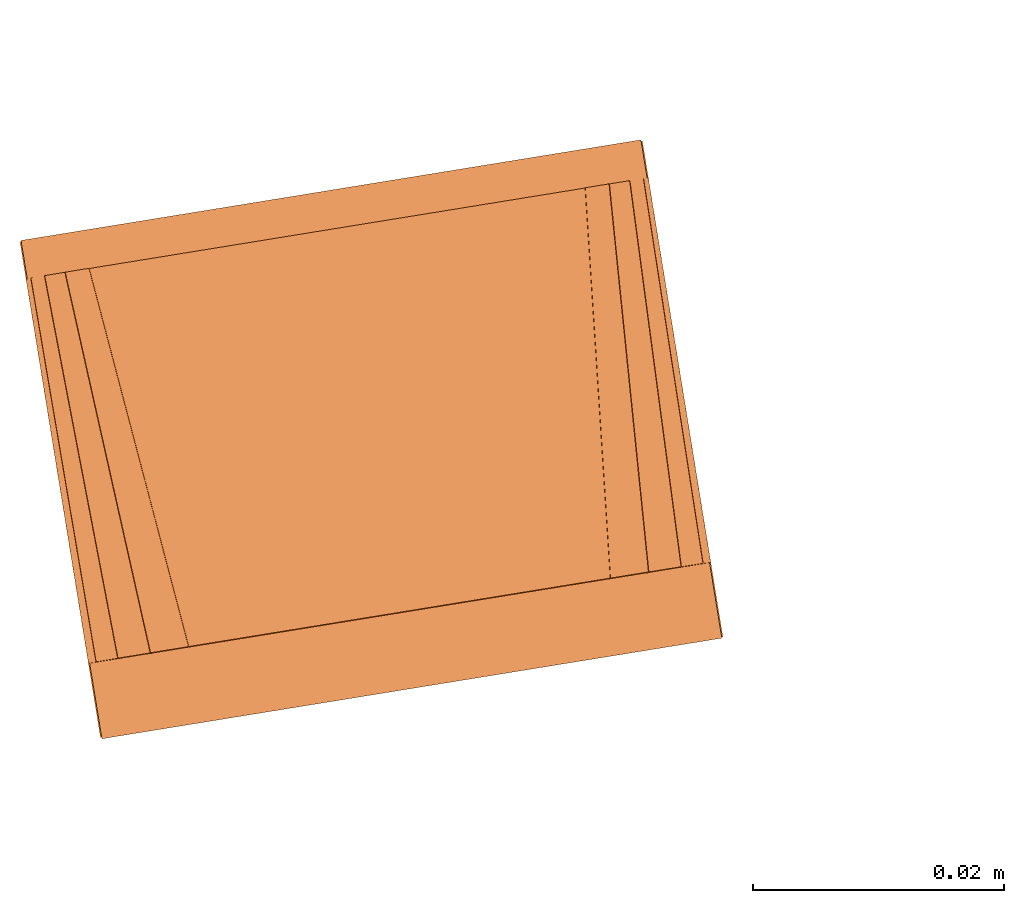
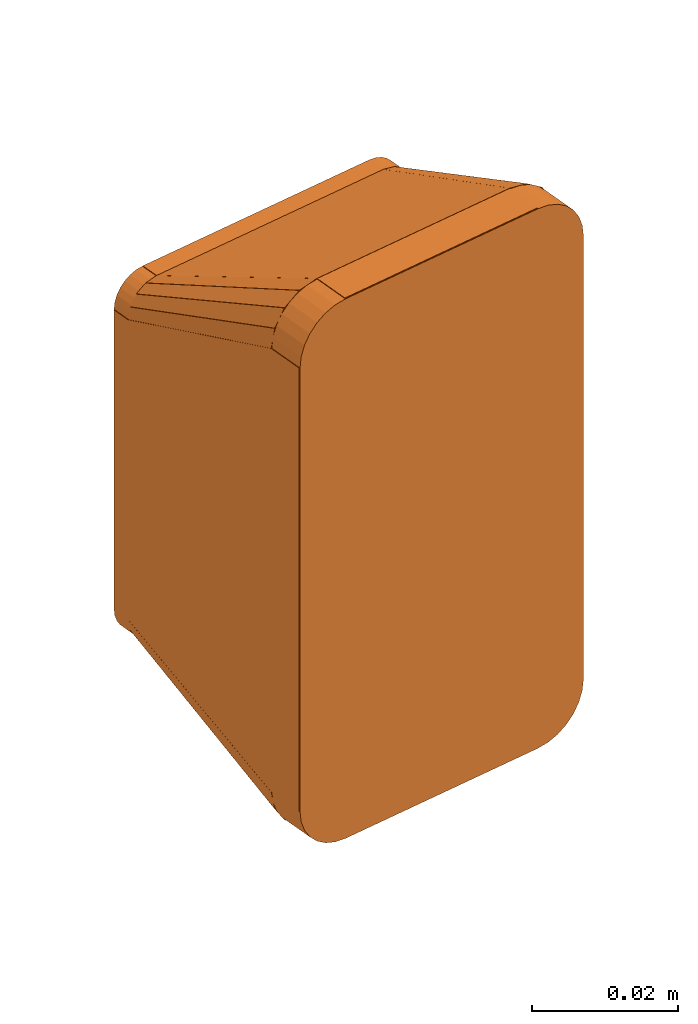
# One storey, part 13 of 20: 1 proxy.
"""IFC2X3 building model written with IfcOpenShell, lengths in millimetres."""

from ifc_helpers import new_model, entity, si_unit, converted_unit, derived_unit, direction, frame, frame_2d, origin, origin_with_axes, origin_2d_with_axis, place, context, subcontext, project, spatial, polyline, circle_curve, parameter, trimmed, segment, composite_curve, rectangle, outline, extrude, source, transform, mapped, material, type_object, element, save


model = new_model("IFC2X3")

# Units and contexts
model_context = context("Model", 3, precision=0.01, world=origin(), true_north=direction((6.12323399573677e-17, 1.0)))
plan_context = context("Plan", 3, precision=1e-05, world=origin_with_axes())
body_context = subcontext(model_context, "Body", "Model", "MODEL_VIEW")
ifc_project = project(units=[converted_unit("PLANEANGLEUNIT", "DEGREE", entity("IfcPositiveLengthMeasure", 0.0174532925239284), si_unit("PLANEANGLEUNIT", "RADIAN"), dimensions=[0, 0, 0, 0, 0, 0, 0]), si_unit("AREAUNIT", "SQUARE_METRE"), si_unit("LENGTHUNIT", "METRE", prefix="MILLI"), si_unit("MASSUNIT", "GRAM", prefix="KILO"), si_unit("POWERUNIT", "WATT"), si_unit("PRESSUREUNIT", "PASCAL", prefix="KILO"), si_unit("FORCEUNIT", "NEWTON", prefix="KILO"), si_unit("ELECTRICVOLTAGEUNIT", "VOLT"), si_unit("ELECTRICCURRENTUNIT", "AMPERE"), si_unit("THERMODYNAMICTEMPERATUREUNIT", "DEGREE_CELSIUS"), si_unit("TIMEUNIT", "SECOND"), si_unit("VOLUMEUNIT", "CUBIC_METRE"), derived_unit("LINEARVELOCITYUNIT", [(si_unit("LENGTHUNIT", "METRE"), 1), (si_unit("TIMEUNIT", "SECOND"), -1)]), derived_unit("VOLUMETRICFLOWRATEUNIT", [(si_unit("VOLUMEUNIT", "CUBIC_METRE"), 1), (si_unit("TIMEUNIT", "SECOND"), -1)]), derived_unit("THERMALTRANSMITTANCEUNIT", [(si_unit("POWERUNIT", "WATT"), 1), (si_unit("THERMODYNAMICTEMPERATUREUNIT", "KELVIN"), -1), (si_unit("AREAUNIT", "SQUARE_METRE"), -1)]), derived_unit("SOUNDPRESSUREUNIT", [(si_unit("PRESSUREUNIT", "PASCAL"), 1)])], contexts=[model_context, plan_context])

# Site, building, storey
site_placement = place(None, frame((-0.219946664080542, 0.12226179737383, 0.0), z_axis=(0.0, 0.0, 1.0), x_axis=(-0.160236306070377, 0.987078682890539, 0.0)))
site = spatial("IfcSite", under=ifc_project, at=site_placement, Name="Default", CompositionType="ELEMENT")
building_placement = place(site_placement, origin_with_axes())
building = spatial("IfcBuilding", under=site, at=building_placement, CompositionType="ELEMENT")
storey_placement = place(building_placement, frame((0.0, 0.0, 50999.9999999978), z_axis=(0.0, 0.0, 1.0), x_axis=(1.0, 0.0, 0.0)))
storey = spatial("IfcBuildingStorey", under=building, at=storey_placement, Name="Nivå D", CompositionType="ELEMENT", Elevation=50999.9999999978)

# Proxy
ifc_material = material(Name="<Unnamed>")
building_element_proxy_type = type_object("IfcBuildingElementProxyType", Name="Enkel stikk på vegg 2P+J IP44 PH:COVERED-SOCKET- 1", PredefinedType="NOTDEFINED", material=ifc_material)
shared_shape = source(origin(), body_context, "Body", "SweptSolid", [
    extrude(rectangle(XDim=2.99999999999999, YDim=40.0, at=frame_2d((2.1094237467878e-15, 0.0), x_axis=(1.0, 0.0))), frame((0.0, 38.5, 29.8999999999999), z_axis=(0.0, 0.0, 1.0), x_axis=(0.0, -1.0, 0.0)), (0.0, 0.0, 1.0), 0.200000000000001),
    extrude(rectangle(XDim=0.200000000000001, YDim=2.99999999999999, at=frame_2d((-2.11636264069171e-15, 0.0), x_axis=(1.0, 0.0))), frame((-25.0, 38.5, -25.0)), (0.0, 0.0, 1.0), 50.0),
    extrude(rectangle(XDim=2.99999999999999, YDim=40.0, at=frame_2d((2.1094237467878e-15, 0.0), x_axis=(1.0, 0.0))), frame((0.0, 38.5, -30.1), z_axis=(0.0, 0.0, 1.0), x_axis=(0.0, -1.0, 0.0)), (0.0, 0.0, 1.0), 0.200000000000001),
    extrude(rectangle(XDim=0.200000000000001, YDim=2.99999999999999, at=frame_2d((-2.11636264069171e-15, 0.0), x_axis=(1.0, 0.0))), frame((25.0, 38.5, -25.0)), (0.0, 0.0, 1.0), 50.0),
    extrude(rectangle(XDim=0.199999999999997, YDim=5.0, at=frame_2d((4.2257863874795e-15, 0.0), x_axis=(1.0, 0.0))), frame((-22.5, 40.0, -25.0), z_axis=(0.0, 0.0, 1.0), x_axis=(0.0, 1.0, 0.0)), (0.0, 0.0, 1.0), 50.0),
    extrude(rectangle(XDim=0.199999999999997, YDim=40.0, at=frame_2d((4.2257863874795e-15, 0.0), x_axis=(1.0, 0.0))), frame((0.0, 40.0, -30.0), z_axis=(0.0, 0.0, 1.0), x_axis=(0.0, 1.0, 0.0)), (0.0, 0.0, 1.0), 5.00000000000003),
    extrude(rectangle(XDim=0.199999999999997, YDim=40.0, at=frame_2d((4.2257863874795e-15, 1.77635683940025e-15), x_axis=(1.0, 0.0))), frame((0.0, 40.0, 25.0), z_axis=(0.0, 0.0, 1.0), x_axis=(0.0, 1.0, 0.0)), (0.0, 0.0, 1.0), 5.00000000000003),
    extrude(rectangle(XDim=0.199999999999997, YDim=5.0, at=frame_2d((4.2257863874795e-15, 0.0), x_axis=(1.0, 0.0))), frame((22.5, 40.0, -25.0), z_axis=(0.0, 0.0, 1.0), x_axis=(0.0, 1.0, 0.0)), (0.0, 0.0, 1.0), 50.0),
    extrude(rectangle(XDim=0.199999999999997, YDim=40.0, at=frame_2d((4.2257863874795e-15, 0.0), x_axis=(1.0, 0.0))), frame((0.0, 40.0, -25.0), z_axis=(0.0, 0.0, 1.0), x_axis=(0.0, 1.0, 0.0)), (0.0, 0.0, 1.0), 50.0),
    extrude(outline(polyline([(-37.0, -15.5), (37.0, -15.5), (25.0, 15.5), (-25.0, 15.5), (-37.0, -15.5)])), frame((24.9, 21.5, 0.0), z_axis=(1.0, 0.0, 0.0), x_axis=(0.0, 0.0, -1.0)), (0.0, 0.0, 1.0), 0.200000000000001),
    extrude(outline(polyline([(-37.0, -15.5), (37.0, -15.5), (25.0, 15.5), (-25.0, 15.5), (-37.0, -15.5)])), frame((-25.1, 21.5, 0.0), z_axis=(1.0, 0.0, 0.0), x_axis=(0.0, 0.0, -1.0)), (0.0, 0.0, 1.0), 0.200000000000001),
    extrude(rectangle(XDim=0.200000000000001, YDim=5.99999999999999, at=frame_2d((-2.11636264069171e-15, 0.0), x_axis=(1.0, 0.0))), frame((-25.0, 3.0, -37.0)), (0.0, 0.0, 1.0), 73.9999999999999),
    extrude(outline(polyline([(-20.0, -17.2191753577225), (20.0, -17.2191753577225), (17.0, 17.2191753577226), (-17.0, 17.2191753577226), (-20.0, -17.2191753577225)])), frame((0.0, 21.5435560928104, -37.5900159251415), z_axis=(0.0, -0.43556092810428, 0.900159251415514), x_axis=(-1.0, 0.0, 0.0)), (0.0, 0.0, 1.0), 0.200000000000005),
    extrude(outline(polyline([(-20.0, -17.2191753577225), (20.0, -17.2191753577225), (17.0, 17.2191753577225), (-17.0, 17.2191753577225), (-20.0, -17.2191753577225)])), frame((0.0, 21.4564439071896, 37.4099840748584), z_axis=(0.0, 0.435560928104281, 0.900159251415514), x_axis=(-1.0, 0.0, 0.0)), (0.0, 0.0, 1.0), 0.2),
    extrude(rectangle(XDim=0.200000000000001, YDim=40.0, at=frame_2d((-2.11636264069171e-15, 0.0), x_axis=(1.0, 0.0))), frame((0.0, 37.0, -30.0), z_axis=(0.0, 0.0, 1.0), x_axis=(0.0, 1.0, 0.0)), (0.0, 0.0, 1.0), 59.9999999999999),
    extrude(rectangle(XDim=5.99999999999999, YDim=34.0, at=frame_2d((-4.44089209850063e-16, 0.0), x_axis=(1.0, 0.0))), frame((0.0, 3.0, -45.1), z_axis=(0.0, 0.0, 1.0), x_axis=(0.0, -1.0, 0.0)), (0.0, 0.0, 1.0), 0.199999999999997),
    extrude(rectangle(XDim=0.200000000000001, YDim=5.99999999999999, at=frame_2d((-2.11636264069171e-15, 0.0), x_axis=(1.0, 0.0))), frame((25.0, 3.0, -37.0)), (0.0, 0.0, 1.0), 73.9999999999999),
    extrude(rectangle(XDim=5.99999999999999, YDim=34.0, at=frame_2d((-4.44089209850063e-16, 0.0), x_axis=(1.0, 0.0))), frame((0.0, 3.0, 44.8999999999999), z_axis=(0.0, 0.0, 1.0), x_axis=(0.0, -1.0, 0.0)), (0.0, 0.0, 1.0), 0.199999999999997),
    extrude(rectangle(XDim=0.2, YDim=7.99999999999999, at=frame_2d((0.0, -8.88178419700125e-16), x_axis=(1.0, 0.0))), frame((-21.0, 0.0, -37.0), z_axis=(0.0, 0.0, 1.0), x_axis=(0.0, 1.0, 0.0)), (0.0, 0.0, 1.0), 73.9999999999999),
    extrude(rectangle(XDim=0.2, YDim=34.0, at=origin_2d_with_axis()), frame((0.0, 0.0, 37.0), z_axis=(0.0, 0.0, 1.0), x_axis=(0.0, 1.0, 0.0)), (0.0, 0.0, 1.0), 7.99999999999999),
    extrude(rectangle(XDim=0.2, YDim=34.0, at=origin_2d_with_axis()), frame((0.0, 0.0, -45.0), z_axis=(0.0, 0.0, 1.0), x_axis=(0.0, 1.0, 0.0)), (0.0, 0.0, 1.0), 7.99999999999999),
    extrude(rectangle(XDim=0.2, YDim=7.99999999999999, at=frame_2d((0.0, 8.88178419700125e-16), x_axis=(1.0, 0.0))), frame((21.0, 0.0, -37.0), z_axis=(0.0, 0.0, 1.0), x_axis=(0.0, 1.0, 0.0)), (0.0, 0.0, 1.0), 73.9999999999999),
    extrude(rectangle(XDim=0.2, YDim=34.0, at=origin_2d_with_axis()), frame((0.0, 0.0, -37.0), z_axis=(0.0, 0.0, 1.0), x_axis=(0.0, 1.0, 0.0)), (0.0, 0.0, 1.0), 73.9999999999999),
    extrude(outline(polyline([(1.08099727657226, -17.03348345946), (4.20244242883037, -17.03348345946), (-1.66626824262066, 17.03348345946), (-3.61717146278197, 17.03348345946), (1.08099727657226, -17.03348345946)])), frame((-19.7259684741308, 21.4585331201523, 37.1633597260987), z_axis=(-0.177526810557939, 0.414668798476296, 0.892487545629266), x_axis=(0.980785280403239, 0.0, 0.195090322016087)), (0.0, 0.0, 1.0), 0.2),
    extrude(outline(polyline([(3.01990324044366, -16.4896658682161), (6.1413483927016, -16.4896658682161), (-3.60517420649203, 16.4896658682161), (-5.55607742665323, 16.4896658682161), (3.01990324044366, -16.4896658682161)])), frame((-21.9895955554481, 21.4658777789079, 36.2225488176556), z_axis=(-0.522226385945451, 0.341222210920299, 0.781567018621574), x_axis=(0.831469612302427, 0.0, 0.555570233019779)), (0.0, 0.0, 1.0), 0.199999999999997),
    extrude(outline(polyline([(-16.4204267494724, -1.19774945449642), (17.253352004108, -1.19774945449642), (16.6126402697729, 0.64494201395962), (-17.4455655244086, 1.75055689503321), (-16.4204267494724, -1.19774945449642)])), frame((-23.8817454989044, 21.522369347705, 34.5959673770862), z_axis=(0.810399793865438, -0.223693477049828, -0.541491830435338), x_axis=(-0.00678157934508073, 0.92059760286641, -0.390453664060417)), (0.0, 0.0, 1.0), 0.199999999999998),
    extrude(outline(polyline([(-16.171794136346, -1.18594495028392), (17.0697461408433, -1.18594495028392), (16.3790138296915, 0.638585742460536), (-17.2769658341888, 1.73330415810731), (-16.171794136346, -1.18594495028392)])), frame((-24.850408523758, 21.5075304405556, 32.2631747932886), z_axis=(0.978000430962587, -0.0753044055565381, -0.194536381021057), x_axis=(0.0, 0.93256809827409, -0.360994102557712)), (0.0, 0.0, 1.0), 0.199999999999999),
    extrude(outline(polyline([(-29.6193976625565, -0.956708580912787), (29.6193976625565, -0.956708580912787), (30.0, 0.956708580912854), (-30.0, 0.95670858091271), (-29.6193976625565, -0.956708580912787)])), frame((-20.9567085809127, 36.9, 0.0), z_axis=(0.0, 1.0, 0.0), x_axis=(0.0, 0.0, 1.0)), (0.0, 0.0, 1.0), 0.200000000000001),
    extrude(outline(polyline([(-28.5355339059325, -0.811058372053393), (28.5355339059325, -0.811058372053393), (29.6193976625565, 0.811058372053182), (-29.6193976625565, 0.811058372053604), (-28.5355339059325, -0.811058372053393)])), frame((-22.7244755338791, 36.9, 0.0), z_axis=(0.0, 1.0, 0.0), x_axis=(0.0, 0.0, 1.0)), (0.0, 0.0, 1.0), 0.200000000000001),
    extrude(outline(polyline([(-26.9134171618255, -0.541931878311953), (26.9134171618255, -0.541931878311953), (28.5355339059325, 0.541931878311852), (-28.5355339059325, 0.541931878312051), (-26.9134171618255, -0.541931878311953)])), frame((-24.0774657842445, 36.9, 0.0), z_axis=(0.0, 1.0, 0.0), x_axis=(0.0, 0.0, 1.0)), (0.0, 0.0, 1.0), 0.200000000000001),
    extrude(outline(polyline([(-25.0, -0.190301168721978), (25.0, -0.190301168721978), (26.9134171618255, 0.190301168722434), (-26.9134171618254, 0.190301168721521), (-25.0, -0.190301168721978)])), frame((-24.809698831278, 36.9, 0.0), z_axis=(0.0, 1.0, 0.0), x_axis=(0.0, 0.0, 1.0)), (0.0, 0.0, 1.0), 0.200000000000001),
    extrude(outline(polyline([(1.08099727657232, -17.03348345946), (4.20244242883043, -17.03348345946), (-1.66626824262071, 17.03348345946), (-3.61717146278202, 17.03348345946), (1.08099727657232, -17.03348345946)])), frame((-19.7614738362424, 21.5414668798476, -37.3418572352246), z_axis=(0.177526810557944, -0.414668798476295, 0.892487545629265), x_axis=(0.980785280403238, 0.0, -0.195090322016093)), (0.0, 0.0, 1.0), 0.2),
    extrude(outline(polyline([(3.01990324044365, -16.4896658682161), (6.14134839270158, -16.4896658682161), (-3.60517420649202, 16.4896658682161), (-5.55607742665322, 16.4896658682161), (3.01990324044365, -16.4896658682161)])), frame((-22.0940408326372, 21.534122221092, -36.37886222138), z_axis=(0.522226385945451, -0.341222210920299, 0.781567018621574), x_axis=(0.831469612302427, 0.0, -0.555570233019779)), (0.0, 0.0, 1.0), 0.199999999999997),
    extrude(outline(polyline([(4.26145044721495, -15.9029889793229), (7.38289559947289, -15.9029889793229), (-4.84672141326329, 15.9029889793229), (-6.79762463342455, 15.9029889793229), (4.26145044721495, -15.9029889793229)])), frame((-23.8817454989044, 21.522369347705, -34.5959673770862), z_axis=(0.810399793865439, -0.223693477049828, 0.541491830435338), x_axis=(0.555570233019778, 0.0, -0.831469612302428)), (0.0, 0.0, 1.0), 0.199999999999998),
    extrude(outline(polyline([(4.61662458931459, -15.5441361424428), (7.73806974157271, -15.5441361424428), (-5.201895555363, 15.5441361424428), (-7.1527987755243, 15.5441361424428), (4.61662458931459, -15.5441361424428)])), frame((-24.850408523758, 21.5075304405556, -32.2631747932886), z_axis=(0.978000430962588, -0.0753044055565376, 0.194536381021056), x_axis=(0.195090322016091, 0.0, -0.980785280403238)), (0.0, 0.0, 1.0), 0.200000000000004),
    extrude(outline(polyline([(-26.4334093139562, -5.06390263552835), (-24.4825060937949, -5.06390263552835), (24.5567579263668, 4.69061346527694), (26.3591574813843, 5.43719180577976), (-26.4334093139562, -5.06390263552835)])), frame((24.8096988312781, 36.9, 0.0), z_axis=(0.0, 1.0, 0.0), x_axis=(0.195090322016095, 0.0, -0.980785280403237)), (0.0, 0.0, 1.0), 0.200000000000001),
    extrude(outline(polyline([(-24.0275105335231, -15.4028933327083), (-22.0766073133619, -15.4028933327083), (22.6787697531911, 14.5016935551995), (23.4253480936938, 16.3040931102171), (-24.0275105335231, -15.4028933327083)])), frame((24.0774657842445, 36.9, 0.0), z_axis=(0.0, 1.0, 0.0), x_axis=(0.555570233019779, 0.0, -0.831469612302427)), (0.0, 0.0, 1.0), 0.200000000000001),
    extrude(outline(polyline([(-17.1300260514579, -24.1770292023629), (-15.1791228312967, -24.1770292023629), (16.5278636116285, 23.2758294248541), (15.7812852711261, 25.0782289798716), (-17.1300260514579, -24.1770292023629)])), frame((22.7244755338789, 36.9, 0.0), z_axis=(0.0, 1.0, 0.0), x_axis=(0.831469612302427, 0.0, -0.555570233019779)), (0.0, 0.0, 1.0), 0.200000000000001),
    extrude(outline(polyline([(-6.79103535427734, -29.2369138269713), (-4.84013213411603, -29.2369138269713), (6.71678352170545, 28.8636246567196), (4.91438396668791, 29.6102029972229), (-6.79103535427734, -29.2369138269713)])), frame((20.9567085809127, 36.9, 0.0), z_axis=(0.0, 1.0, 0.0), x_axis=(0.980785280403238, 0.0, -0.195090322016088)), (0.0, 0.0, 1.0), 0.200000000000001),
    extrude(outline(polyline([(-17.3241825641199, -1.1707220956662), (16.3495961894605, -1.1707220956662), (17.0992780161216, 0.630388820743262), (-16.1246916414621, 1.71105537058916), (-17.3241825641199, -1.1707220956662)])), frame((24.6548084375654, 21.4924695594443, -32.2242675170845), z_axis=(0.978000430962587, 0.0753044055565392, -0.19453638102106), x_axis=(0.00678157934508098, 0.920597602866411, 0.390453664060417)), (0.0, 0.0, 1.0), 0.2),
    extrude(outline(polyline([(-17.4931781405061, -1.18360654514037), (16.5829684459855, -1.18360654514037), (17.2831297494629, 0.637326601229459), (-16.3729200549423, 1.7298864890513), (-17.4931781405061, -1.18360654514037)])), frame((23.7196655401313, 21.477630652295, -34.4876690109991), z_axis=(0.810399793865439, 0.223693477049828, -0.541491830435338), x_axis=(0.0257857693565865, 0.909727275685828, 0.414404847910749)), (0.0, 0.0, 1.0), 0.199999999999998),
    extrude(outline(polyline([(-6.14134839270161, -16.4896658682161), (-3.01990324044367, -16.4896658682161), (5.55607742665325, 16.4896658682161), (3.605174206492, 16.4896658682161), (-6.14134839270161, -16.4896658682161)])), frame((22.0940408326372, 21.534122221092, -36.37886222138), z_axis=(-0.52222638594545, -0.341222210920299, 0.781567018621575), x_axis=(0.831469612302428, 0.0, 0.555570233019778)), (0.0, 0.0, 1.0), 0.199999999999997),
    extrude(outline(polyline([(-4.20244242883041, -17.03348345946), (-1.0809972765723, -17.03348345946), (3.61717146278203, 17.03348345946), (1.66626824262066, 17.03348345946), (-4.20244242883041, -17.03348345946)])), frame((19.7614738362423, 21.5414668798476, -37.3418572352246), z_axis=(-0.177526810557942, -0.414668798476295, 0.892487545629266), x_axis=(0.980785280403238, 0.0, 0.19509032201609)), (0.0, 0.0, 1.0), 0.200000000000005),
    extrude(outline(polyline([(-7.73806974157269, -15.5441361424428), (-4.61662458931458, -15.5441361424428), (7.1527987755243, 15.5441361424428), (5.20189555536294, 15.5441361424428), (-7.73806974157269, -15.5441361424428)])), frame((24.6548084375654, 21.4924695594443, 32.2242675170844), z_axis=(0.978000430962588, 0.0753044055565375, 0.194536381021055), x_axis=(0.195090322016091, 0.0, -0.980785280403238)), (0.0, 0.0, 1.0), 0.199999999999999),
    extrude(outline(polyline([(-7.3828955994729, -15.9029889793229), (-4.26145044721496, -15.9029889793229), (6.79762463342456, 15.9029889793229), (4.84672141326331, 15.9029889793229), (-7.3828955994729, -15.9029889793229)])), frame((23.7196655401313, 21.477630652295, 34.4876690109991), z_axis=(0.810399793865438, 0.223693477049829, 0.541491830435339), x_axis=(0.55557023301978, 0.0, -0.831469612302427)), (0.0, 0.0, 1.0), 0.199999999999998),
    extrude(outline(polyline([(-6.1413483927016, -16.4896658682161), (-3.01990324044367, -16.4896658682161), (5.55607742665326, 16.4896658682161), (3.60517420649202, 16.4896658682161), (-6.1413483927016, -16.4896658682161)])), frame((21.9895955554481, 21.4658777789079, 36.2225488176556), z_axis=(0.522226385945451, 0.341222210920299, 0.781567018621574), x_axis=(0.831469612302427, 0.0, -0.555570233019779)), (0.0, 0.0, 1.0), 0.200000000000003),
    extrude(outline(polyline([(-4.20244242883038, -17.03348345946), (-1.08099727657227, -17.03348345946), (3.61717146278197, 17.03348345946), (1.66626824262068, 17.03348345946), (-4.20244242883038, -17.03348345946)])), frame((19.7259684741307, 21.4585331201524, 37.1633597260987), z_axis=(0.177526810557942, 0.414668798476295, 0.892487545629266), x_axis=(0.980785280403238, 0.0, -0.19509032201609)), (0.0, 0.0, 1.0), 0.2),
    extrude(outline(composite_curve([segment(polyline([(-2.70000000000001, -2.29999999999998), (-1.90000000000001, -2.29999999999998)]), True, "CONTINUOUS"), segment(trimmed(circle_curve(frame_2d((2.29999999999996, -2.29999999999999), x_axis=(-1.0, 0.0)), 4.19999999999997), [parameter(270.0)], [parameter(0.0)], True, "PARAMETER"), False, "CONTINUOUS"), segment(polyline([(2.3, 1.89999999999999), (2.3, 2.69999999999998)]), True, "CONTINUOUS"), segment(trimmed(circle_curve(frame_2d((2.29999999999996, -2.29999999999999), x_axis=(0.0, 1.0)), 4.99999999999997), [parameter(0.0)], [parameter(90.0000000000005)], True, "PARAMETER"), True, "CONTINUOUS")], self_intersect=False)), frame((-22.3, 37.0, 27.3), z_axis=(0.0, 1.0, 0.0), x_axis=(0.0, 0.0, -1.0)), (0.0, 0.0, 1.0), 2.99999999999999),
    extrude(outline(composite_curve([segment(polyline([(-2.6999999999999, -2.30000000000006), (-1.8999999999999, -2.30000000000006)]), True, "CONTINUOUS"), segment(trimmed(circle_curve(frame_2d((2.30000000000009, -2.2999999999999), x_axis=(-1.0, 0.0)), 4.19999999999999), [parameter(270.000000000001)], [parameter(7.63333123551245e-13)], True, "PARAMETER"), False, "CONTINUOUS"), segment(polyline([(2.29999999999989, 1.90000000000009), (2.29999999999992, 2.70000000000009)]), True, "CONTINUOUS"), segment(trimmed(circle_curve(frame_2d((2.30000000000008, -2.2999999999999), x_axis=(0.0, 1.0)), 4.99999999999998), [parameter(0.0)], [parameter(90.0000000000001)], True, "PARAMETER"), True, "CONTINUOUS")], self_intersect=False)), frame((-22.3, 37.0, -27.3), z_axis=(0.0, 1.0, 0.0), x_axis=(1.0, 0.0, 0.0)), (0.0, 0.0, 1.0), 2.99999999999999),
    extrude(outline(composite_curve([segment(polyline([(-2.7, -2.29999999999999), (-1.9, -2.29999999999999)]), True, "CONTINUOUS"), segment(trimmed(circle_curve(frame_2d((2.3, -2.3), x_axis=(-1.0, 0.0)), 4.2), [parameter(270.0)], [parameter(0.0)], True, "PARAMETER"), False, "CONTINUOUS"), segment(polyline([(2.3, 1.89999999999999), (2.3, 2.69999999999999)]), True, "CONTINUOUS"), segment(trimmed(circle_curve(frame_2d((2.3, -2.3), x_axis=(0.0, 1.0)), 4.99999999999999), [parameter(0.0)], [parameter(90.0)], True, "PARAMETER"), True, "CONTINUOUS")], self_intersect=False)), frame((22.3, 37.0, 27.3), z_axis=(0.0, 1.0, 0.0), x_axis=(-1.0, 0.0, 0.0)), (0.0, 0.0, 1.0), 2.99999999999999),
    extrude(outline(composite_curve([segment(polyline([(-2.69999999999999, -2.3), (-1.89999999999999, -2.30000000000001)]), True, "CONTINUOUS"), segment(trimmed(circle_curve(frame_2d((2.30000000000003, -2.30000000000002), x_axis=(-1.0, 0.0)), 4.20000000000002), [parameter(270.000000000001)], [parameter(0.0)], True, "PARAMETER"), False, "CONTINUOUS"), segment(polyline([(2.29999999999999, 1.9), (2.29999999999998, 2.70000000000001)]), True, "CONTINUOUS"), segment(trimmed(circle_curve(frame_2d((2.30000000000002, -2.30000000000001), x_axis=(0.0, 1.0)), 5.00000000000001), [parameter(0.0)], [parameter(89.9999999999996)], True, "PARAMETER"), True, "CONTINUOUS")], self_intersect=False)), frame((22.3, 37.0, -27.3), z_axis=(0.0, 1.0, 0.0), x_axis=(0.0, 0.0, 1.0)), (0.0, 0.0, 1.0), 2.99999999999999),
    extrude(outline(composite_curve([segment(polyline([(-4.19999999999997, -3.80000000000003), (-3.39999999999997, -3.80000000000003)]), True, "CONTINUOUS"), segment(trimmed(circle_curve(frame_2d((3.80000000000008, -3.80000000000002), x_axis=(-1.0, 0.0)), 7.20000000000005), [parameter(270.000000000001)], [parameter(0.0)], True, "PARAMETER"), False, "CONTINUOUS"), segment(polyline([(3.79999999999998, 3.40000000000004), (3.79999999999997, 4.20000000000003)]), True, "CONTINUOUS"), segment(trimmed(circle_curve(frame_2d((3.80000000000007, -3.80000000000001), x_axis=(0.0, 1.0)), 8.00000000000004), [parameter(0.0)], [parameter(89.9999999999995)], True, "PARAMETER"), True, "CONTINUOUS")], self_intersect=False)), frame((-20.8, 0.0, -40.7999999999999), z_axis=(0.0, 1.0, 0.0), x_axis=(1.0, 0.0, 0.0)), (0.0, 0.0, 1.0), 5.99999999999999),
    extrude(outline(composite_curve([segment(polyline([(-4.19999999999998, -3.79999999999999), (-3.39999999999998, -3.79999999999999)]), True, "CONTINUOUS"), segment(trimmed(circle_curve(frame_2d((3.80000000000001, -3.8), x_axis=(-1.0, 0.0)), 7.2), [parameter(270.0)], [parameter(0.0)], True, "PARAMETER"), False, "CONTINUOUS"), segment(polyline([(3.79999999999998, 3.4), (3.79999999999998, 4.19999999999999)]), True, "CONTINUOUS"), segment(trimmed(circle_curve(frame_2d((3.79999999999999, -3.79999999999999), x_axis=(0.0, 1.0)), 7.99999999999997), [parameter(0.0)], [parameter(90.0)], True, "PARAMETER"), True, "CONTINUOUS")], self_intersect=False)), frame((-20.8, 0.0, 40.7999999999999), z_axis=(0.0, 1.0, 0.0), x_axis=(0.0, 0.0, -1.0)), (0.0, 0.0, 1.0), 5.99999999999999),
    extrude(outline(composite_curve([segment(polyline([(-4.19999999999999, -3.80000000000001), (-3.4, -3.80000000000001)]), True, "CONTINUOUS"), segment(trimmed(circle_curve(frame_2d((3.80000000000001, -3.8), x_axis=(-1.0, 0.0)), 7.2), [parameter(270.0)], [parameter(0.0)], True, "PARAMETER"), False, "CONTINUOUS"), segment(polyline([(3.79999999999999, 3.40000000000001), (3.79999999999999, 4.19999999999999)]), True, "CONTINUOUS"), segment(trimmed(circle_curve(frame_2d((3.80000000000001, -3.80000000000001), x_axis=(0.0, 1.0)), 8.0), [parameter(0.0)], [parameter(89.9999999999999)], True, "PARAMETER"), True, "CONTINUOUS")], self_intersect=False)), frame((20.8, 0.0, -40.8), z_axis=(0.0, 1.0, 0.0), x_axis=(0.0, 0.0, 1.0)), (0.0, 0.0, 1.0), 5.99999999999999),
    extrude(outline(composite_curve([segment(polyline([(-4.19999999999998, -3.8), (-3.39999999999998, -3.80000000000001)]), True, "CONTINUOUS"), segment(trimmed(circle_curve(frame_2d((3.80000000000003, -3.8), x_axis=(-1.0, 0.0)), 7.20000000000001), [parameter(270.0)], [parameter(0.0)], True, "PARAMETER"), False, "CONTINUOUS"), segment(polyline([(3.79999999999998, 3.4), (3.79999999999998, 4.20000000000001)]), True, "CONTINUOUS"), segment(trimmed(circle_curve(frame_2d((3.80000000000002, -3.79999999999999), x_axis=(0.0, 1.0)), 8.0), [parameter(0.0)], [parameter(89.9999999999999)], True, "PARAMETER"), True, "CONTINUOUS")], self_intersect=False)), frame((20.8, 0.0, 40.7999999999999), z_axis=(0.0, 1.0, 0.0), x_axis=(-1.0, 0.0, 0.0)), (0.0, 0.0, 1.0), 5.99999999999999),
    extrude(outline(composite_curve([segment(polyline([(-3.33333333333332, -1.66666666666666), (1.66666666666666, -1.66666666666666)]), True, "CONTINUOUS"), segment(polyline([(1.66666666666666, -1.66666666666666), (1.66666666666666, 3.33333333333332)]), True, "CONTINUOUS"), segment(trimmed(circle_curve(frame_2d((1.66666666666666, -1.66666666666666), x_axis=(0.0, 1.0)), 4.99999999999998), [parameter(0.0)], [parameter(90.0000000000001)], True, "PARAMETER"), True, "CONTINUOUS")], self_intersect=False)), frame((-21.6666666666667, 39.8999999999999, -26.6666666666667), z_axis=(0.0, 1.0, 0.0), x_axis=(1.0, 0.0, 0.0)), (0.0, 0.0, 1.0), 0.199999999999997),
    extrude(outline(composite_curve([segment(polyline([(-3.33333333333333, -1.66666666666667), (1.66666666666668, -1.66666666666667)]), True, "CONTINUOUS"), segment(polyline([(1.66666666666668, -1.66666666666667), (1.66666666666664, 3.33333333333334)]), True, "CONTINUOUS"), segment(trimmed(circle_curve(frame_2d((1.66666666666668, -1.66666666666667), x_axis=(0.0, 1.0)), 5.00000000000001), [parameter(0.0)], [parameter(89.9999999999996)], True, "PARAMETER"), True, "CONTINUOUS")], self_intersect=False)), frame((21.6666666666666, 39.8999999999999, -26.6666666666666), z_axis=(0.0, 1.0, 0.0), x_axis=(0.0, 0.0, 1.0)), (0.0, 0.0, 1.0), 0.199999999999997),
    extrude(outline(composite_curve([segment(polyline([(-3.33333333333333, -1.66666666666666), (1.66666666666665, -1.66666666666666)]), True, "CONTINUOUS"), segment(polyline([(1.66666666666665, -1.66666666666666), (1.66666666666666, 3.33333333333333)]), True, "CONTINUOUS"), segment(trimmed(circle_curve(frame_2d((1.66666666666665, -1.66666666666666), x_axis=(0.0, 1.0)), 4.99999999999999), [parameter(0.0)], [parameter(90.0000000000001)], True, "PARAMETER"), True, "CONTINUOUS")], self_intersect=False)), frame((-21.6666666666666, 39.8999999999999, 26.6666666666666), z_axis=(0.0, 1.0, 0.0), x_axis=(0.0, 0.0, -1.0)), (0.0, 0.0, 1.0), 0.199999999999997),
    extrude(outline(composite_curve([segment(polyline([(-3.33333333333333, -1.66666666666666), (1.66666666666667, -1.66666666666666)]), True, "CONTINUOUS"), segment(polyline([(1.66666666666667, -1.66666666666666), (1.66666666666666, 3.33333333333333)]), True, "CONTINUOUS"), segment(trimmed(circle_curve(frame_2d((1.66666666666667, -1.66666666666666), x_axis=(0.0, 1.0)), 4.99999999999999), [parameter(0.0)], [parameter(90.0)], True, "PARAMETER"), True, "CONTINUOUS")], self_intersect=False)), frame((21.6666666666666, 39.8999999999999, 26.6666666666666), z_axis=(0.0, 1.0, 0.0), x_axis=(-1.0, 0.0, 0.0)), (0.0, 0.0, 1.0), 0.199999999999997),
    extrude(outline(composite_curve([segment(polyline([(-5.33333333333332, -2.66666666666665), (2.66666666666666, -2.66666666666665)]), True, "CONTINUOUS"), segment(polyline([(2.66666666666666, -2.66666666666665), (2.66666666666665, 5.33333333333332)]), True, "CONTINUOUS"), segment(trimmed(circle_curve(frame_2d((2.66666666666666, -2.66666666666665), x_axis=(0.0, 1.0)), 7.99999999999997), [parameter(0.0)], [parameter(90.0)], True, "PARAMETER"), True, "CONTINUOUS")], self_intersect=False)), frame((-19.6666666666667, -0.1, 39.6666666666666), z_axis=(0.0, 1.0, 0.0), x_axis=(0.0, 0.0, -1.0)), (0.0, 0.0, 1.0), 0.2),
    extrude(outline(composite_curve([segment(polyline([(-5.33333333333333, -2.66666666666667), (2.66666666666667, -2.66666666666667)]), True, "CONTINUOUS"), segment(polyline([(2.66666666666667, -2.66666666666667), (2.66666666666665, 5.33333333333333)]), True, "CONTINUOUS"), segment(trimmed(circle_curve(frame_2d((2.66666666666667, -2.66666666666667), x_axis=(0.0, 1.0)), 8.0), [parameter(0.0)], [parameter(89.9999999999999)], True, "PARAMETER"), True, "CONTINUOUS")], self_intersect=False)), frame((19.6666666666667, -0.1, 39.6666666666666), z_axis=(0.0, 1.0, 0.0), x_axis=(-1.0, 0.0, 0.0)), (0.0, 0.0, 1.0), 0.2),
    extrude(outline(composite_curve([segment(polyline([(-5.33333333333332, -2.66666666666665), (2.66666666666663, -2.66666666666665)]), True, "CONTINUOUS"), segment(polyline([(2.66666666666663, -2.66666666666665), (2.66666666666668, 5.3333333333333)]), True, "CONTINUOUS"), segment(trimmed(circle_curve(frame_2d((2.66666666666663, -2.66666666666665), x_axis=(0.0, 1.0)), 7.99999999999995), [parameter(0.0)], [parameter(90.0000000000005)], True, "PARAMETER"), True, "CONTINUOUS")], self_intersect=False)), frame((-19.6666666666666, -0.1, -39.6666666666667), z_axis=(0.0, 1.0, 0.0), x_axis=(1.0, 0.0, 0.0)), (0.0, 0.0, 1.0), 0.2),
    extrude(outline(composite_curve([segment(polyline([(-5.33333333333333, -2.66666666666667), (2.66666666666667, -2.66666666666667)]), True, "CONTINUOUS"), segment(polyline([(2.66666666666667, -2.66666666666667), (2.66666666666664, 5.33333333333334)]), True, "CONTINUOUS"), segment(trimmed(circle_curve(frame_2d((2.66666666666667, -2.66666666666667), x_axis=(0.0, 1.0)), 8.0), [parameter(0.0)], [parameter(89.9999999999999)], True, "PARAMETER"), True, "CONTINUOUS")], self_intersect=False)), frame((19.6666666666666, -0.1, -39.6666666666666), z_axis=(0.0, 1.0, 0.0), x_axis=(0.0, 0.0, 1.0)), (0.0, 0.0, 1.0), 0.2),
])
proxy_placement = place(storey_placement, frame((777472.619644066, -589270.094426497, 1100.0), z_axis=(0.0, 0.0, 1.0), x_axis=(0.0, -1.0, 0.0)))
element("IfcBuildingElementProxy", 1, at=proxy_placement, inside=storey, type_object=building_element_proxy_type, material=ifc_material, Name="Enkel stikk på vegg 2P+J IP44 PH:COVERED-SOCKET- 1", ObjectType="Enkel stikk på vegg 2P+J IP44 PH:COVERED-SOCKET- 1", context=body_context, shape_type="MappedRepresentation", body=[
    mapped(shared_shape, transform((0.0, 0.0, 0.0), scale=1.0)),
])

save(model, "model.ifc")
